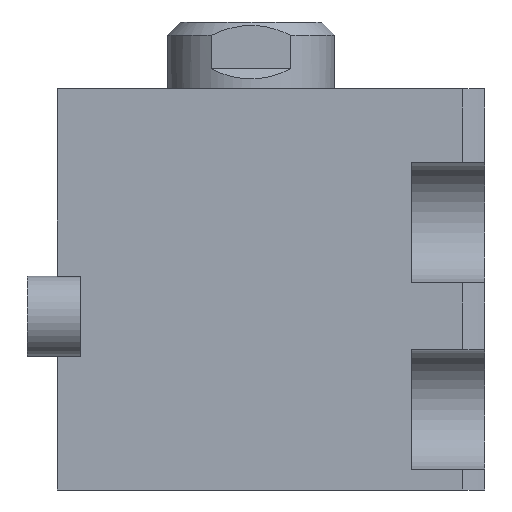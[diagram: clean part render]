
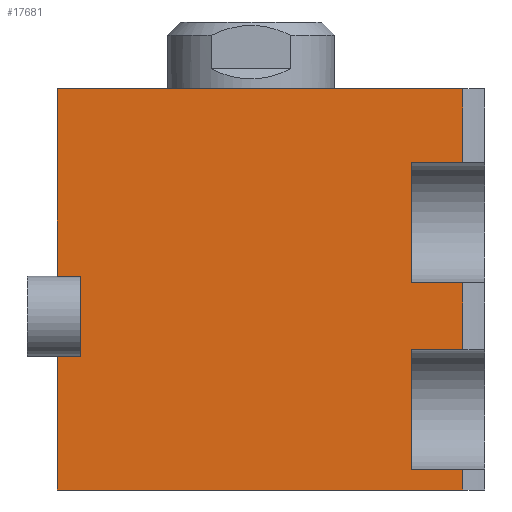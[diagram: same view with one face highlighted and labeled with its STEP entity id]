
A CAD part, left-side view. The second image highlights one B-rep face of the part: STEP entity #17681.
In plain terms, the highlighted planar face has unit normal (-1, 0, 0).
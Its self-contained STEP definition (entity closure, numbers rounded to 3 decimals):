
#9 = VECTOR ( 'NONE', #5416, 1000. ) ;
#151 = VECTOR ( 'NONE', #10852, 1000. ) ;
#511 = EDGE_CURVE ( 'NONE', #5800, #14175, #3466, .T. ) ;
#650 = VERTEX_POINT ( 'NONE', #11434 ) ;
#681 = CARTESIAN_POINT ( 'NONE',  ( -40., -21., 60. ) ) ;
#705 = LINE ( 'NONE', #16601, #7072 ) ;
#720 = DIRECTION ( 'NONE',  ( 0., -1., 0. ) ) ;
#1102 = CARTESIAN_POINT ( 'NONE',  ( -40., 32., 32. ) ) ;
#1178 = ORIENTED_EDGE ( 'NONE', *, *, #4410, .T. ) ;
#1230 = CARTESIAN_POINT ( 'NONE',  ( -40., -28.639, 21. ) ) ;
#1349 = VERTEX_POINT ( 'NONE', #11824 ) ;
#1366 = VERTEX_POINT ( 'NONE', #14573 ) ;
#1883 = VECTOR ( 'NONE', #17440, 1000. ) ;
#2040 = DIRECTION ( 'NONE',  ( 0., 0., -1. ) ) ;
#2088 = EDGE_CURVE ( 'NONE', #650, #2255, #705, .T. ) ;
#2255 = VERTEX_POINT ( 'NONE', #4510 ) ;
#2533 = CARTESIAN_POINT ( 'NONE',  ( -40., 32., 0. ) ) ;
#2589 = CARTESIAN_POINT ( 'NONE',  ( -40., 32., 3. ) ) ;
#2618 = CARTESIAN_POINT ( 'NONE',  ( -40., -21., 60. ) ) ;
#2638 = ORIENTED_EDGE ( 'NONE', *, *, #10201, .T. ) ;
#2664 = CARTESIAN_POINT ( 'NONE',  ( -40., 32., 60. ) ) ;
#2741 = LINE ( 'NONE', #11257, #16873 ) ;
#2778 = LINE ( 'NONE', #8787, #10077 ) ;
#2968 = VECTOR ( 'NONE', #3972, 1000. ) ;
#2999 = ORIENTED_EDGE ( 'NONE', *, *, #9102, .F. ) ;
#3057 = DIRECTION ( 'NONE',  ( 0., -1., 0. ) ) ;
#3072 = EDGE_CURVE ( 'NONE', #9662, #14181, #2778, .T. ) ;
#3089 = ORIENTED_EDGE ( 'NONE', *, *, #4918, .F. ) ;
#3335 = LINE ( 'NONE', #12320, #10206 ) ;
#3466 = LINE ( 'NONE', #2589, #17581 ) ;
#3631 = LINE ( 'NONE', #15008, #9 ) ;
#3704 = DIRECTION ( 'NONE',  ( 1., 0., 0. ) ) ;
#3890 = CARTESIAN_POINT ( 'NONE',  ( -40., 32., 20. ) ) ;
#3972 = DIRECTION ( 'NONE',  ( 0., 0., -1. ) ) ;
#4137 = CARTESIAN_POINT ( 'NONE',  ( -40., 28.5, 20. ) ) ;
#4410 = EDGE_CURVE ( 'NONE', #1349, #10621, #3631, .T. ) ;
#4438 = AXIS2_PLACEMENT_3D ( 'NONE', #16053, #3704, #9230 ) ;
#4510 = CARTESIAN_POINT ( 'NONE',  ( -40., -28.639, 49. ) ) ;
#4660 = VECTOR ( 'NONE', #5490, 1000. ) ;
#4675 = CARTESIAN_POINT ( 'NONE',  ( -40., 32., 32. ) ) ;
#4918 = EDGE_CURVE ( 'NONE', #15340, #12388, #10282, .T. ) ;
#5126 = CARTESIAN_POINT ( 'NONE',  ( -40., 32., 60. ) ) ;
#5145 = DIRECTION ( 'NONE',  ( 0., 0., -1. ) ) ;
#5416 = DIRECTION ( 'NONE',  ( 0., -1., 0. ) ) ;
#5490 = DIRECTION ( 'NONE',  ( 0., 0., -1. ) ) ;
#5501 = VECTOR ( 'NONE', #9832, 1000. ) ;
#5595 = ORIENTED_EDGE ( 'NONE', *, *, #9317, .F. ) ;
#5800 = VERTEX_POINT ( 'NONE', #9589 ) ;
#5982 = ORIENTED_EDGE ( 'NONE', *, *, #11931, .T. ) ;
#6067 = CARTESIAN_POINT ( 'NONE',  ( -40., -21., 3. ) ) ;
#6144 = ORIENTED_EDGE ( 'NONE', *, *, #9420, .F. ) ;
#6168 = EDGE_CURVE ( 'NONE', #15340, #2255, #2741, .T. ) ;
#6366 = VECTOR ( 'NONE', #6511, 1000. ) ;
#6511 = DIRECTION ( 'NONE',  ( 0., -1., 0. ) ) ;
#6643 = EDGE_CURVE ( 'NONE', #13846, #13640, #15606, .T. ) ;
#7072 = VECTOR ( 'NONE', #15242, 1000. ) ;
#7466 = DIRECTION ( 'NONE',  ( 0., -1., 0. ) ) ;
#7778 = CARTESIAN_POINT ( 'NONE',  ( -40., 32., 0. ) ) ;
#7856 = CARTESIAN_POINT ( 'NONE',  ( -40., -21., 49. ) ) ;
#7987 = VERTEX_POINT ( 'NONE', #1102 ) ;
#8068 = LINE ( 'NONE', #12040, #14919 ) ;
#8391 = VERTEX_POINT ( 'NONE', #15223 ) ;
#8729 = LINE ( 'NONE', #2664, #151 ) ;
#8787 = CARTESIAN_POINT ( 'NONE',  ( -40., 28.5, 60. ) ) ;
#8999 = ORIENTED_EDGE ( 'NONE', *, *, #511, .T. ) ;
#9102 = EDGE_CURVE ( 'NONE', #1366, #650, #10008, .T. ) ;
#9166 = LINE ( 'NONE', #16082, #1883 ) ;
#9188 = LINE ( 'NONE', #12523, #5501 ) ;
#9230 = DIRECTION ( 'NONE',  ( 0., 1., 0. ) ) ;
#9317 = EDGE_CURVE ( 'NONE', #1349, #14175, #13229, .T. ) ;
#9336 = ORIENTED_EDGE ( 'NONE', *, *, #6643, .T. ) ;
#9350 = VECTOR ( 'NONE', #720, 1000. ) ;
#9411 = CARTESIAN_POINT ( 'NONE',  ( -40., -28.639, 0. ) ) ;
#9420 = EDGE_CURVE ( 'NONE', #5800, #10629, #9166, .T. ) ;
#9562 = VECTOR ( 'NONE', #2040, 1000. ) ;
#9589 = CARTESIAN_POINT ( 'NONE',  ( -40., -28.639, 3. ) ) ;
#9662 = VERTEX_POINT ( 'NONE', #4137 ) ;
#9810 = EDGE_CURVE ( 'NONE', #1366, #7987, #8729, .T. ) ;
#9832 = DIRECTION ( 'NONE',  ( 0., 1., 0. ) ) ;
#10008 = LINE ( 'NONE', #5126, #6366 ) ;
#10077 = VECTOR ( 'NONE', #10273, 1000. ) ;
#10166 = EDGE_LOOP ( 'NONE', ( #11708, #2999, #16223, #2638, #14472, #5982, #9336, #16197, #6144, #8999, #5595, #1178, #15696, #11573, #3089, #16320 ) ) ;
#10201 = EDGE_CURVE ( 'NONE', #7987, #14181, #17055, .T. ) ;
#10206 = VECTOR ( 'NONE', #13690, 1000. ) ;
#10273 = DIRECTION ( 'NONE',  ( 0., 0., 1. ) ) ;
#10282 = LINE ( 'NONE', #2618, #2968 ) ;
#10536 = EDGE_CURVE ( 'NONE', #8391, #10621, #8068, .T. ) ;
#10621 = VERTEX_POINT ( 'NONE', #1230 ) ;
#10629 = VERTEX_POINT ( 'NONE', #9411 ) ;
#10852 = DIRECTION ( 'NONE',  ( 0., 0., -1. ) ) ;
#11257 = CARTESIAN_POINT ( 'NONE',  ( -40., 32., 49. ) ) ;
#11404 = CARTESIAN_POINT ( 'NONE',  ( -40., 28.5, 32. ) ) ;
#11434 = CARTESIAN_POINT ( 'NONE',  ( -40., -28.639, 60. ) ) ;
#11573 = ORIENTED_EDGE ( 'NONE', *, *, #15698, .T. ) ;
#11708 = ORIENTED_EDGE ( 'NONE', *, *, #2088, .F. ) ;
#11824 = CARTESIAN_POINT ( 'NONE',  ( -40., -21., 21. ) ) ;
#11931 = EDGE_CURVE ( 'NONE', #9662, #13846, #9188, .T. ) ;
#12040 = CARTESIAN_POINT ( 'NONE',  ( -40., -28.639, -240. ) ) ;
#12320 = CARTESIAN_POINT ( 'NONE',  ( -40., 32., 31. ) ) ;
#12388 = VERTEX_POINT ( 'NONE', #15630 ) ;
#12523 = CARTESIAN_POINT ( 'NONE',  ( -40., 32., 20. ) ) ;
#13229 = LINE ( 'NONE', #681, #9562 ) ;
#13640 = VERTEX_POINT ( 'NONE', #7778 ) ;
#13690 = DIRECTION ( 'NONE',  ( 0., 1., 0. ) ) ;
#13695 = CARTESIAN_POINT ( 'NONE',  ( -40., 32., 60. ) ) ;
#13846 = VERTEX_POINT ( 'NONE', #3890 ) ;
#14126 = DIRECTION ( 'NONE',  ( 0., 1., 0. ) ) ;
#14175 = VERTEX_POINT ( 'NONE', #6067 ) ;
#14181 = VERTEX_POINT ( 'NONE', #11404 ) ;
#14472 = ORIENTED_EDGE ( 'NONE', *, *, #3072, .F. ) ;
#14560 = VECTOR ( 'NONE', #7466, 1000. ) ;
#14573 = CARTESIAN_POINT ( 'NONE',  ( -40., 32., 60. ) ) ;
#14919 = VECTOR ( 'NONE', #5145, 1000. ) ;
#14975 = LINE ( 'NONE', #2533, #14560 ) ;
#15008 = CARTESIAN_POINT ( 'NONE',  ( -40., 32., 21. ) ) ;
#15223 = CARTESIAN_POINT ( 'NONE',  ( -40., -28.639, 31. ) ) ;
#15242 = DIRECTION ( 'NONE',  ( 0., 0., -1. ) ) ;
#15340 = VERTEX_POINT ( 'NONE', #7856 ) ;
#15606 = LINE ( 'NONE', #13695, #4660 ) ;
#15608 = FACE_OUTER_BOUND ( 'NONE', #10166, .T. ) ;
#15630 = CARTESIAN_POINT ( 'NONE',  ( -40., -21., 31. ) ) ;
#15696 = ORIENTED_EDGE ( 'NONE', *, *, #10536, .F. ) ;
#15698 = EDGE_CURVE ( 'NONE', #8391, #12388, #3335, .T. ) ;
#16053 = CARTESIAN_POINT ( 'NONE',  ( -40., 32., 60. ) ) ;
#16082 = CARTESIAN_POINT ( 'NONE',  ( -40., -28.639, -240. ) ) ;
#16197 = ORIENTED_EDGE ( 'NONE', *, *, #17432, .T. ) ;
#16223 = ORIENTED_EDGE ( 'NONE', *, *, #9810, .T. ) ;
#16320 = ORIENTED_EDGE ( 'NONE', *, *, #6168, .T. ) ;
#16601 = CARTESIAN_POINT ( 'NONE',  ( -40., -28.639, -240. ) ) ;
#16873 = VECTOR ( 'NONE', #3057, 1000. ) ;
#17055 = LINE ( 'NONE', #4675, #9350 ) ;
#17409 = PLANE ( 'NONE',  #4438 ) ;
#17432 = EDGE_CURVE ( 'NONE', #13640, #10629, #14975, .T. ) ;
#17440 = DIRECTION ( 'NONE',  ( 0., 0., -1. ) ) ;
#17581 = VECTOR ( 'NONE', #14126, 1000. ) ;
#17681 = ADVANCED_FACE ( 'NONE', ( #15608 ), #17409, .F. ) ;
